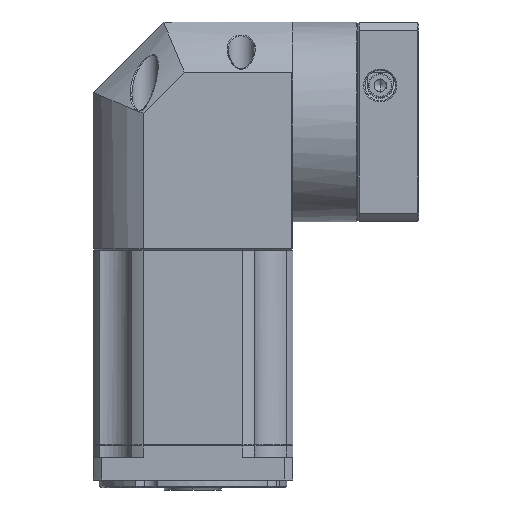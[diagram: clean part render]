
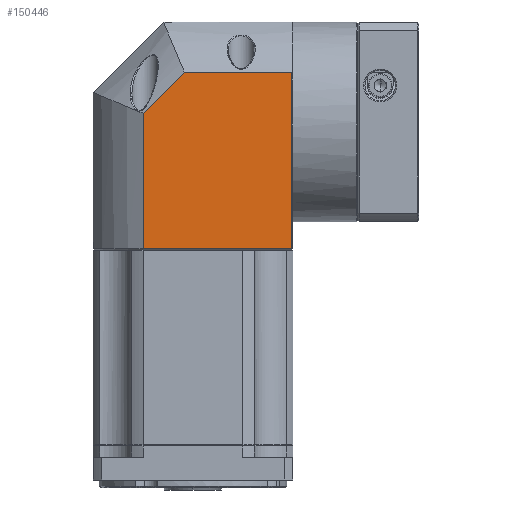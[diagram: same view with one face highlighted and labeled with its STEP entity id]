
A CAD part, front view. The second image highlights one B-rep face of the part: STEP entity #150446.
In plain terms, the highlighted planar face has unit normal (0, -1, 0).
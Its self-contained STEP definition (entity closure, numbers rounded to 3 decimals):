
#154 = LINE ( 'NONE', #147551, #165751 ) ;
#3939 = VERTEX_POINT ( 'NONE', #102288 ) ;
#6472 = VERTEX_POINT ( 'NONE', #93899 ) ;
#7647 = EDGE_CURVE ( 'NONE', #94407, #6472, #154, .T. ) ;
#8258 = DIRECTION ( 'NONE',  ( -1., 0., 0. ) ) ;
#17289 = DIRECTION ( 'NONE',  ( 0., 0., -1. ) ) ;
#20845 = PLANE ( 'NONE',  #137903 ) ;
#24690 = DIRECTION ( 'NONE',  ( 0., 0., 1. ) ) ;
#37100 = EDGE_CURVE ( 'NONE', #82602, #38214, #161191, .T. ) ;
#37845 = CARTESIAN_POINT ( 'NONE',  ( -13.734, 115.354, 60.654 ) ) ;
#38214 = VERTEX_POINT ( 'NONE', #40932 ) ;
#40932 = CARTESIAN_POINT ( 'NONE',  ( -13.734, 115.354, 21.837 ) ) ;
#47351 = VECTOR ( 'NONE', #160810, 1000. ) ;
#56877 = VECTOR ( 'NONE', #24690, 1000. ) ;
#60449 = EDGE_CURVE ( 'NONE', #3939, #94407, #116812, .T. ) ;
#62449 = EDGE_LOOP ( 'NONE', ( #68487, #133504, #157278, #141158, #111212 ) ) ;
#66872 = LINE ( 'NONE', #125785, #136402 ) ;
#68487 = ORIENTED_EDGE ( 'NONE', *, *, #164109, .T. ) ;
#76961 = CARTESIAN_POINT ( 'NONE',  ( 49.979, 115.354, -35.846 ) ) ;
#82494 = CARTESIAN_POINT ( 'NONE',  ( 49.979, 115.354, 39.368 ) ) ;
#82602 = VERTEX_POINT ( 'NONE', #147984 ) ;
#83815 = DIRECTION ( 'NONE',  ( 0.707, 0., 0.707 ) ) ;
#86511 = DIRECTION ( 'NONE',  ( 0., 1., 0. ) ) ;
#90088 = DIRECTION ( 'NONE',  ( 1., 0., 0. ) ) ;
#93899 = CARTESIAN_POINT ( 'NONE',  ( 49.479, 115.354, -35.846 ) ) ;
#94407 = VERTEX_POINT ( 'NONE', #158367 ) ;
#102288 = CARTESIAN_POINT ( 'NONE',  ( 3.796, 115.354, 39.368 ) ) ;
#108653 = LINE ( 'NONE', #76961, #135286 ) ;
#111212 = ORIENTED_EDGE ( 'NONE', *, *, #37100, .F. ) ;
#116812 = LINE ( 'NONE', #82494, #47351 ) ;
#117317 = EDGE_CURVE ( 'NONE', #38214, #3939, #66872, .T. ) ;
#124173 = FACE_OUTER_BOUND ( 'NONE', #62449, .T. ) ;
#125785 = CARTESIAN_POINT ( 'NONE',  ( -13.734, 115.354, 21.837 ) ) ;
#133504 = ORIENTED_EDGE ( 'NONE', *, *, #7647, .F. ) ;
#135286 = VECTOR ( 'NONE', #90088, 1000. ) ;
#136402 = VECTOR ( 'NONE', #83815, 1000. ) ;
#137903 = AXIS2_PLACEMENT_3D ( 'NONE', #164832, #86511, #8258 ) ;
#141158 = ORIENTED_EDGE ( 'NONE', *, *, #117317, .F. ) ;
#147551 = CARTESIAN_POINT ( 'NONE',  ( 49.479, 115.354, 60.654 ) ) ;
#147984 = CARTESIAN_POINT ( 'NONE',  ( -13.734, 115.354, -35.846 ) ) ;
#150446 = ADVANCED_FACE ( 'NONE', ( #124173 ), #20845, .F. ) ;
#157278 = ORIENTED_EDGE ( 'NONE', *, *, #60449, .F. ) ;
#158367 = CARTESIAN_POINT ( 'NONE',  ( 49.479, 115.354, 39.368 ) ) ;
#160810 = DIRECTION ( 'NONE',  ( 1., 0., 0. ) ) ;
#161191 = LINE ( 'NONE', #37845, #56877 ) ;
#164109 = EDGE_CURVE ( 'NONE', #82602, #6472, #108653, .T. ) ;
#164832 = CARTESIAN_POINT ( 'NONE',  ( 49.979, 115.354, 60.654 ) ) ;
#165751 = VECTOR ( 'NONE', #17289, 1000. ) ;
